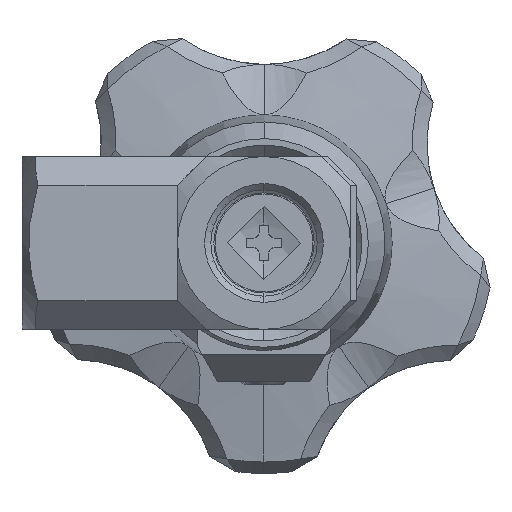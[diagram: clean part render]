
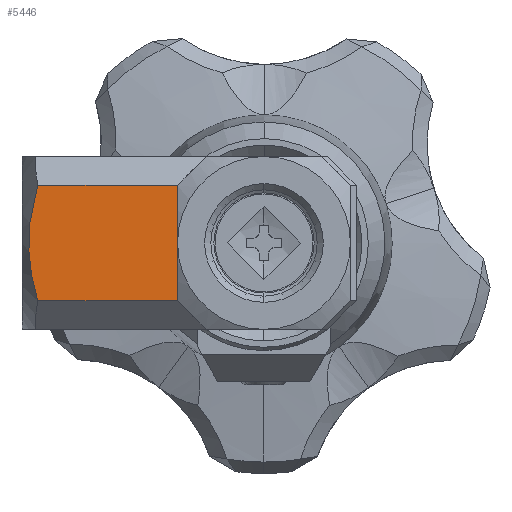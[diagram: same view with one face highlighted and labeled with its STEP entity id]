
A CAD part, front view. The second image highlights one B-rep face of the part: STEP entity #5446.
In plain terms, the highlighted planar face has unit normal (0, -1, 0).
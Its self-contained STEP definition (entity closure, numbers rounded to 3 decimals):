
#36 = VECTOR ( 'NONE', #18261, 1000. ) ;
#50 = VECTOR ( 'NONE', #13442, 1000. ) ;
#816 = LINE ( 'NONE', #3776, #36 ) ;
#1602 = AXIS2_PLACEMENT_3D ( 'NONE', #18071, #3487, #20505 ) ;
#2683 = VERTEX_POINT ( 'NONE', #15211 ) ;
#3487 = DIRECTION ( 'NONE',  ( 0., -1., 0. ) ) ;
#3588 = CARTESIAN_POINT ( 'NONE',  ( -19.637, -8.5, -5. ) ) ;
#3776 = CARTESIAN_POINT ( 'NONE',  ( -21., -8.5, 5. ) ) ;
#3809 = CARTESIAN_POINT ( 'NONE',  ( -20.07, -8.5, 3.374 ) ) ;
#5446 = ADVANCED_FACE ( 'NONE', ( #12665 ), #8234, .T. ) ;
#5471 = VERTEX_POINT ( 'NONE', #3588 ) ;
#5990 = CARTESIAN_POINT ( 'NONE',  ( -7.5, -8.5, -5. ) ) ;
#6226 = CARTESIAN_POINT ( 'NONE',  ( -20.423, -8.5, 0.847 ) ) ;
#7520 = VERTEX_POINT ( 'NONE', #22101 ) ;
#8080 = B_SPLINE_CURVE_WITH_KNOTS ( 'NONE', 3,
 ( #30542, #30441, #3809, #20825, #6226, #23308, #8657, #25746, #11112, #28202 ),
 .UNSPECIFIED., .F., .F.,
 ( 4, 2, 2, 2, 4 ),
 ( 0.022, 0.025, 0.027, 0.03, 0.032 ),
 .UNSPECIFIED. ) ;
#8234 = PLANE ( 'NONE',  #1602 ) ;
#8657 = CARTESIAN_POINT ( 'NONE',  ( -20.349, -8.5, -1.684 ) ) ;
#8748 = VERTEX_POINT ( 'NONE', #19693 ) ;
#10078 = ORIENTED_EDGE ( 'NONE', *, *, #26295, .T. ) ;
#11003 = EDGE_CURVE ( 'NONE', #2683, #7520, #29908, .T. ) ;
#11112 = CARTESIAN_POINT ( 'NONE',  ( -19.874, -8.5, -4.187 ) ) ;
#11266 = ORIENTED_EDGE ( 'NONE', *, *, #12245, .T. ) ;
#12245 = EDGE_CURVE ( 'NONE', #5471, #7520, #25264, .T. ) ;
#12425 = ORIENTED_EDGE ( 'NONE', *, *, #27065, .T. ) ;
#12665 = FACE_OUTER_BOUND ( 'NONE', #18307, .T. ) ;
#13442 = DIRECTION ( 'NONE',  ( 1., 0., 0. ) ) ;
#15211 = CARTESIAN_POINT ( 'NONE',  ( -7.5, -8.5, 5. ) ) ;
#16190 = VECTOR ( 'NONE', #20920, 1000. ) ;
#18071 = CARTESIAN_POINT ( 'NONE',  ( -21., -8.5, 7.5 ) ) ;
#18261 = DIRECTION ( 'NONE',  ( -1., 0., 0. ) ) ;
#18307 = EDGE_LOOP ( 'NONE', ( #10078, #12425, #11266, #26993 ) ) ;
#18480 = CARTESIAN_POINT ( 'NONE',  ( -7.5, -8.5, -7.5 ) ) ;
#19693 = CARTESIAN_POINT ( 'NONE',  ( -19.637, -8.5, 5. ) ) ;
#20505 = DIRECTION ( 'NONE',  ( 0., 0., -1. ) ) ;
#20825 = CARTESIAN_POINT ( 'NONE',  ( -20.346, -8.5, 1.705 ) ) ;
#20920 = DIRECTION ( 'NONE',  ( 0., 0., -1. ) ) ;
#22101 = CARTESIAN_POINT ( 'NONE',  ( -7.5, -8.5, -5. ) ) ;
#23308 = CARTESIAN_POINT ( 'NONE',  ( -20.423, -8.5, -0.844 ) ) ;
#25264 = LINE ( 'NONE', #5990, #50 ) ;
#25746 = CARTESIAN_POINT ( 'NONE',  ( -20.075, -8.5, -3.354 ) ) ;
#26295 = EDGE_CURVE ( 'NONE', #2683, #8748, #816, .T. ) ;
#26993 = ORIENTED_EDGE ( 'NONE', *, *, #11003, .F. ) ;
#27065 = EDGE_CURVE ( 'NONE', #8748, #5471, #8080, .T. ) ;
#28202 = CARTESIAN_POINT ( 'NONE',  ( -19.637, -8.5, -5. ) ) ;
#29908 = LINE ( 'NONE', #18480, #16190 ) ;
#30441 = CARTESIAN_POINT ( 'NONE',  ( -19.873, -8.5, 4.192 ) ) ;
#30542 = CARTESIAN_POINT ( 'NONE',  ( -19.637, -8.5, 5. ) ) ;
